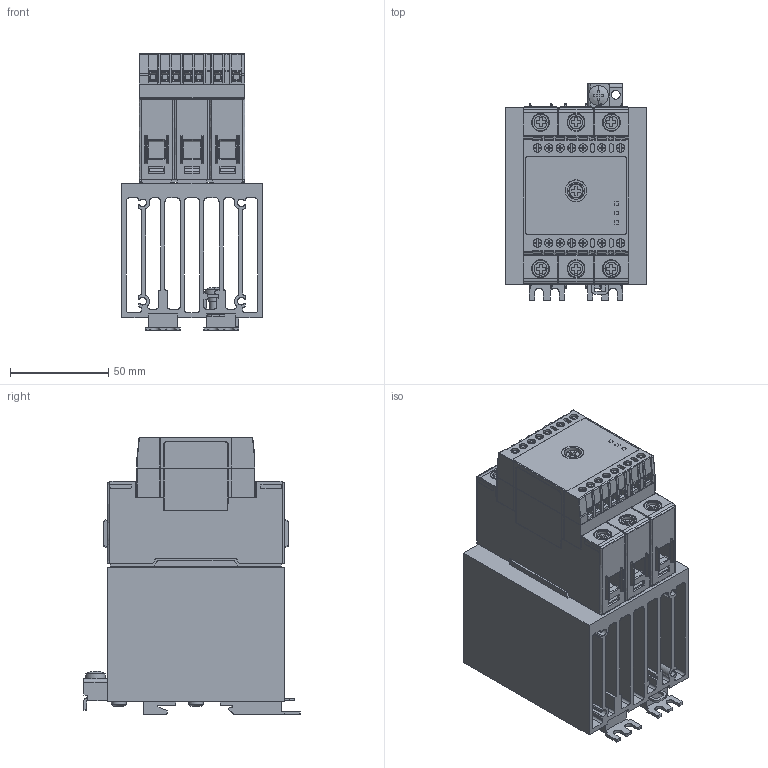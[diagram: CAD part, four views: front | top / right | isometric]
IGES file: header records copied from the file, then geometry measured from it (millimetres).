
Global section: file name: G:\ACAD\Catalogue\RG2-3\CGI0995-02.igs; native system: AutoCAD-17.2s (LMS Tech) (Microsoft Windows NT Version 5.2 (x64)); preprocessor: Autodesk IGES Translator Mechanical Desktop 2009 (Feb 21 2008) from Autodesk, Inc.; date: 20140716.091919; units: millimetre
Bounding box: 71.3 x 110 x 140.7 mm (x, y, z)
Surface area: 152766.1 mm2 (no closed solid volume)
Topology: 0 solids, 0 shells, 2821 faces, 16578 edges, 16536 vertices
Faces by surface type: bspline 2821
